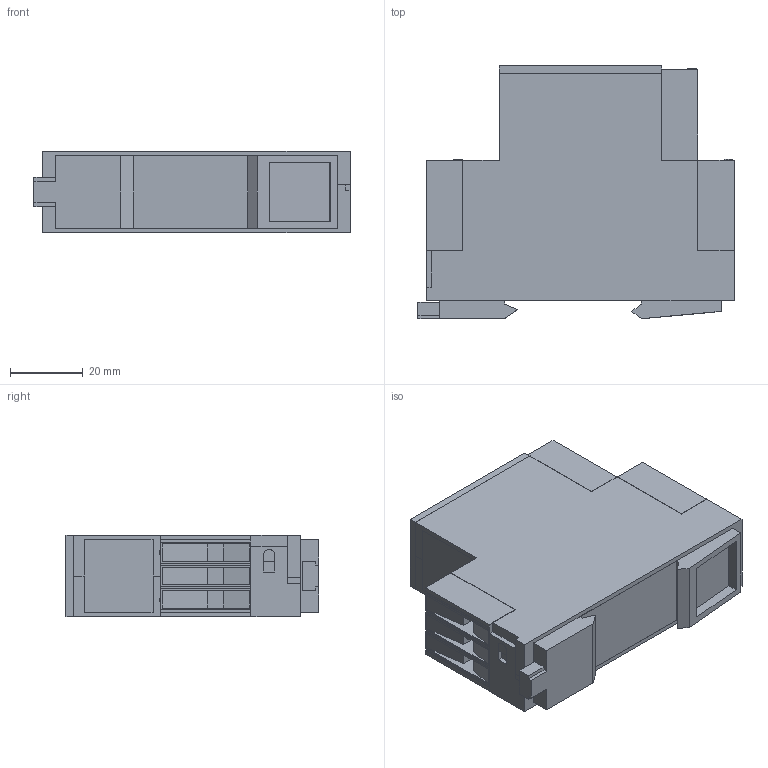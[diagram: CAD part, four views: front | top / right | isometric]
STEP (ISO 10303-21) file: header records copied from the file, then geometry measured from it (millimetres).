
FILE_DESCRIPTION (( 'STEP AP214' ), '1' );
FILE_NAME ('KR_PXN.STEP', '2019-11-25T17:26:36', ( '' ), ( '' ), 'SwSTEP 2.0', 'SolidWorks 2013', '' );
FILE_SCHEMA (( 'AUTOMOTIVE_DESIGN' ));
Length unit declared in the file: millimetre
Products named in the file (13): viko; Popis svorky_4_; Popis svorky_7; Svorka_2; Zaslepka; klip_din; Popis svorky_6_; Popis svorky_3_; Popis svorky_1_; Krab_1; Popis svorky_5_A; KR_PXN; Nap_pxn24
Assembly tree (16 placements, depth 2):
  KR_PXN
    Krab_1  x2
    viko
    Zaslepka  x2
    klip_din
    Svorka_2  x3
    Popis svorky_1_
    Popis svorky_3_
    Popis svorky_4_
    Popis svorky_5_A
    Popis svorky_6_
    Popis svorky_7
    Nap_pxn24
Bounding box: 87.2 x 69.9 x 22.6 mm (x, y, z)
Volume: 37877.6 mm3; surface area: 38767.5 mm2
Topology: 23 solids, 23 shells, 662 faces, 1779 edges, 1186 vertices
Faces by surface type: plane 572, bspline 66, cylinder 24
Entity records: 17229 total; most frequent: CARTESIAN_POINT 6111, ORIENTED_EDGE 2154, DIRECTION 1699, EDGE_CURVE 1077, LINE 911, VECTOR 911, VERTEX_POINT 718, EDGE_LOOP 433
